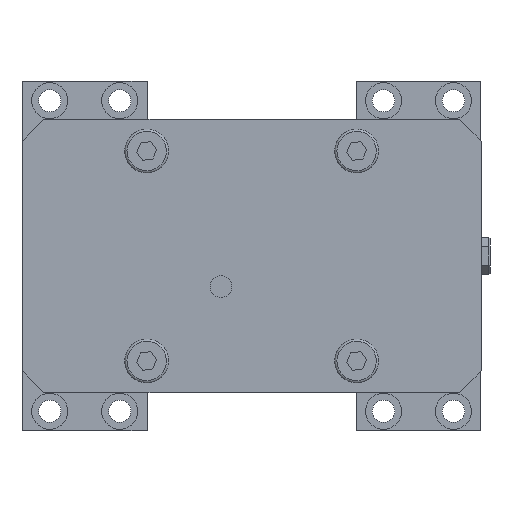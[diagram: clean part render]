
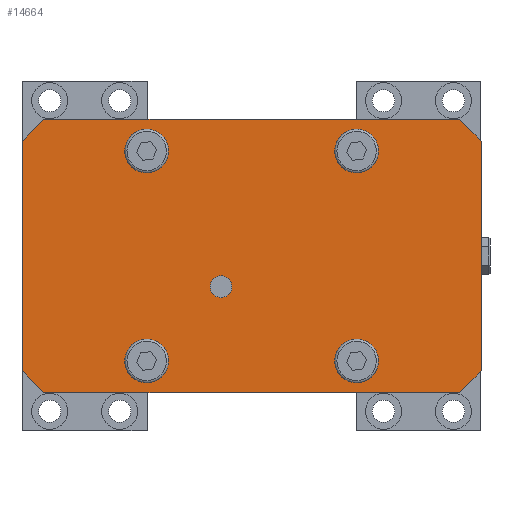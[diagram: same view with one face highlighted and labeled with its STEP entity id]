
A CAD part, front view. The second image highlights one B-rep face of the part: STEP entity #14664.
In plain terms, the highlighted planar face has unit normal (0, -1, 0).
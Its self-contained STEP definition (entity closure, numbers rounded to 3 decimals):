
#349 = CARTESIAN_POINT ( 'NONE',  ( 105., 0., -62.5 ) ) ;
#362 = DIRECTION ( 'NONE',  ( 0., 1., 0. ) ) ;
#411 = VECTOR ( 'NONE', #1737, 1000. ) ;
#648 = ORIENTED_EDGE ( 'NONE', *, *, #8647, .F. ) ;
#1737 = DIRECTION ( 'NONE',  ( -0.707, 0., 0.707 ) ) ;
#2104 = DIRECTION ( 'NONE',  ( -0.707, 0., -0.707 ) ) ;
#2190 = CIRCLE ( 'NONE', #19260, 8.7 ) ;
#2321 = VECTOR ( 'NONE', #4406, 1000. ) ;
#2820 = CARTESIAN_POINT ( 'NONE',  ( 105., 0., -52.5 ) ) ;
#3385 = DIRECTION ( 'NONE',  ( 0., 0., -1. ) ) ;
#3571 = CARTESIAN_POINT ( 'NONE',  ( -95., 0., 62.5 ) ) ;
#4024 = EDGE_CURVE ( 'NONE', #32217, #19167, #15062, .T. ) ;
#4406 = DIRECTION ( 'NONE',  ( 0., 0., -1. ) ) ;
#4596 = CARTESIAN_POINT ( 'NONE',  ( -105., 0., -62.5 ) ) ;
#4603 = LINE ( 'NONE', #3571, #13729 ) ;
#4885 = LINE ( 'NONE', #12210, #23748 ) ;
#5150 = VERTEX_POINT ( 'NONE', #27630 ) ;
#5834 = CARTESIAN_POINT ( 'NONE',  ( -95., 0., -62.5 ) ) ;
#5960 = EDGE_LOOP ( 'NONE', ( #23098, #27688, #31920, #15024, #648, #8940, #14726, #24240 ) ) ;
#6095 = CARTESIAN_POINT ( 'NONE',  ( -48., 0., 56.7 ) ) ;
#6162 = AXIS2_PLACEMENT_3D ( 'NONE', #15402, #7541, #32379 ) ;
#6563 = VECTOR ( 'NONE', #28649, 1000. ) ;
#6578 = ORIENTED_EDGE ( 'NONE', *, *, #22399, .T. ) ;
#6636 = EDGE_CURVE ( 'NONE', #27358, #17685, #23507, .T. ) ;
#7436 = EDGE_CURVE ( 'NONE', #11439, #27358, #4603, .T. ) ;
#7541 = DIRECTION ( 'NONE',  ( 0., 1., 0. ) ) ;
#8042 = DIRECTION ( 'NONE',  ( 0., 1., 0. ) ) ;
#8194 = VECTOR ( 'NONE', #34213, 1000. ) ;
#8647 = EDGE_CURVE ( 'NONE', #5150, #24704, #10945, .T. ) ;
#8936 = CARTESIAN_POINT ( 'NONE',  ( 105., 0., -62.5 ) ) ;
#8940 = ORIENTED_EDGE ( 'NONE', *, *, #31681, .T. ) ;
#9544 = EDGE_CURVE ( 'NONE', #13426, #13426, #33281, .T. ) ;
#9783 = VECTOR ( 'NONE', #32899, 1000. ) ;
#9998 = CARTESIAN_POINT ( 'NONE',  ( 48., 0., 56.7 ) ) ;
#10945 = LINE ( 'NONE', #8936, #9783 ) ;
#11289 = ORIENTED_EDGE ( 'NONE', *, *, #22223, .T. ) ;
#11437 = DIRECTION ( 'NONE',  ( 0., -1., 0. ) ) ;
#11439 = VERTEX_POINT ( 'NONE', #13501 ) ;
#11831 = AXIS2_PLACEMENT_3D ( 'NONE', #20168, #17642, #23376 ) ;
#12141 = EDGE_LOOP ( 'NONE', ( #28700 ) ) ;
#12210 = CARTESIAN_POINT ( 'NONE',  ( -95., 0., -62.5 ) ) ;
#12863 = VERTEX_POINT ( 'NONE', #26433 ) ;
#13337 = AXIS2_PLACEMENT_3D ( 'NONE', #30737, #11437, #17113 ) ;
#13426 = VERTEX_POINT ( 'NONE', #22176 ) ;
#13501 = CARTESIAN_POINT ( 'NONE',  ( -95., 0., 62.5 ) ) ;
#13720 = FACE_BOUND ( 'NONE', #22403, .T. ) ;
#13729 = VECTOR ( 'NONE', #2104, 1000. ) ;
#14649 = CARTESIAN_POINT ( 'NONE',  ( 105., 0., 52.5 ) ) ;
#14664 = ADVANCED_FACE ( 'NONE', ( #22137, #27321, #13720, #24609, #35136, #16741 ), #30357, .F. ) ;
#14726 = ORIENTED_EDGE ( 'NONE', *, *, #29564, .F. ) ;
#15024 = ORIENTED_EDGE ( 'NONE', *, *, #33713, .T. ) ;
#15062 = LINE ( 'NONE', #23109, #411 ) ;
#15325 = VERTEX_POINT ( 'NONE', #2820 ) ;
#15402 = CARTESIAN_POINT ( 'NONE',  ( 48., 0., 48. ) ) ;
#15478 = EDGE_CURVE ( 'NONE', #22340, #22340, #30404, .T. ) ;
#16177 = CARTESIAN_POINT ( 'NONE',  ( -105., 0., -52.5 ) ) ;
#16557 = ORIENTED_EDGE ( 'NONE', *, *, #15478, .T. ) ;
#16741 = FACE_OUTER_BOUND ( 'NONE', #5960, .T. ) ;
#17113 = DIRECTION ( 'NONE',  ( 0., 0., -1. ) ) ;
#17167 = VECTOR ( 'NONE', #3385, 1000. ) ;
#17642 = DIRECTION ( 'NONE',  ( 0., 1., 0. ) ) ;
#17685 = VERTEX_POINT ( 'NONE', #16177 ) ;
#17875 = AXIS2_PLACEMENT_3D ( 'NONE', #25965, #29025, #23639 ) ;
#18681 = EDGE_LOOP ( 'NONE', ( #16557 ) ) ;
#19090 = LINE ( 'NONE', #349, #17167 ) ;
#19167 = VERTEX_POINT ( 'NONE', #26802 ) ;
#19260 = AXIS2_PLACEMENT_3D ( 'NONE', #34493, #8042, #32366 ) ;
#19904 = EDGE_LOOP ( 'NONE', ( #11289 ) ) ;
#20168 = CARTESIAN_POINT ( 'NONE',  ( -48., 0., -48. ) ) ;
#20557 = VERTEX_POINT ( 'NONE', #9998 ) ;
#21583 = CIRCLE ( 'NONE', #6162, 8.7 ) ;
#22137 = FACE_BOUND ( 'NONE', #19904, .T. ) ;
#22176 = CARTESIAN_POINT ( 'NONE',  ( -14., 0., -19. ) ) ;
#22223 = EDGE_CURVE ( 'NONE', #12863, #12863, #2190, .T. ) ;
#22306 = CARTESIAN_POINT ( 'NONE',  ( 105., 0., -62.5 ) ) ;
#22340 = VERTEX_POINT ( 'NONE', #6095 ) ;
#22399 = EDGE_CURVE ( 'NONE', #20557, #20557, #21583, .T. ) ;
#22403 = EDGE_LOOP ( 'NONE', ( #6578 ) ) ;
#23078 = DIRECTION ( 'NONE',  ( 0.707, 0., -0.707 ) ) ;
#23098 = ORIENTED_EDGE ( 'NONE', *, *, #24801, .T. ) ;
#23109 = CARTESIAN_POINT ( 'NONE',  ( 105., 0., 52.5 ) ) ;
#23376 = DIRECTION ( 'NONE',  ( 0., 0., 1. ) ) ;
#23507 = LINE ( 'NONE', #4596, #2321 ) ;
#23639 = DIRECTION ( 'NONE',  ( 0., 0., 1. ) ) ;
#23748 = VECTOR ( 'NONE', #23078, 1000. ) ;
#24240 = ORIENTED_EDGE ( 'NONE', *, *, #4024, .T. ) ;
#24609 = FACE_BOUND ( 'NONE', #18681, .T. ) ;
#24704 = VERTEX_POINT ( 'NONE', #5834 ) ;
#24801 = EDGE_CURVE ( 'NONE', #19167, #11439, #27941, .T. ) ;
#24965 = DIRECTION ( 'NONE',  ( 0., 0., 1. ) ) ;
#25038 = EDGE_LOOP ( 'NONE', ( #35114 ) ) ;
#25965 = CARTESIAN_POINT ( 'NONE',  ( -48., 0., 48. ) ) ;
#26361 = CARTESIAN_POINT ( 'NONE',  ( 105., 0., -52.5 ) ) ;
#26433 = CARTESIAN_POINT ( 'NONE',  ( 48., 0., -39.3 ) ) ;
#26539 = LINE ( 'NONE', #26361, #8194 ) ;
#26802 = CARTESIAN_POINT ( 'NONE',  ( 95., 0., 62.5 ) ) ;
#27321 = FACE_BOUND ( 'NONE', #25038, .T. ) ;
#27358 = VERTEX_POINT ( 'NONE', #29522 ) ;
#27495 = CARTESIAN_POINT ( 'NONE',  ( -48., 0., -39.3 ) ) ;
#27630 = CARTESIAN_POINT ( 'NONE',  ( 95., 0., -62.5 ) ) ;
#27688 = ORIENTED_EDGE ( 'NONE', *, *, #7436, .T. ) ;
#27941 = LINE ( 'NONE', #33436, #6563 ) ;
#28649 = DIRECTION ( 'NONE',  ( -1., 0., 0. ) ) ;
#28700 = ORIENTED_EDGE ( 'NONE', *, *, #9544, .F. ) ;
#28944 = CIRCLE ( 'NONE', #11831, 8.7 ) ;
#29025 = DIRECTION ( 'NONE',  ( 0., 1., 0. ) ) ;
#29522 = CARTESIAN_POINT ( 'NONE',  ( -105., 0., 52.5 ) ) ;
#29564 = EDGE_CURVE ( 'NONE', #32217, #15325, #19090, .T. ) ;
#29823 = VERTEX_POINT ( 'NONE', #27495 ) ;
#30357 = PLANE ( 'NONE',  #33170 ) ;
#30404 = CIRCLE ( 'NONE', #17875, 8.7 ) ;
#30737 = CARTESIAN_POINT ( 'NONE',  ( -14., 0., -14. ) ) ;
#31681 = EDGE_CURVE ( 'NONE', #5150, #15325, #26539, .T. ) ;
#31920 = ORIENTED_EDGE ( 'NONE', *, *, #6636, .T. ) ;
#32217 = VERTEX_POINT ( 'NONE', #14649 ) ;
#32366 = DIRECTION ( 'NONE',  ( 0., 0., 1. ) ) ;
#32379 = DIRECTION ( 'NONE',  ( 0., 0., 1. ) ) ;
#32899 = DIRECTION ( 'NONE',  ( -1., 0., 0. ) ) ;
#33170 = AXIS2_PLACEMENT_3D ( 'NONE', #22306, #362, #24965 ) ;
#33281 = CIRCLE ( 'NONE', #13337, 5. ) ;
#33436 = CARTESIAN_POINT ( 'NONE',  ( 105., 0., 62.5 ) ) ;
#33713 = EDGE_CURVE ( 'NONE', #17685, #24704, #4885, .T. ) ;
#34166 = EDGE_CURVE ( 'NONE', #29823, #29823, #28944, .T. ) ;
#34213 = DIRECTION ( 'NONE',  ( 0.707, 0., 0.707 ) ) ;
#34493 = CARTESIAN_POINT ( 'NONE',  ( 48., 0., -48. ) ) ;
#35114 = ORIENTED_EDGE ( 'NONE', *, *, #34166, .T. ) ;
#35136 = FACE_BOUND ( 'NONE', #12141, .T. ) ;
